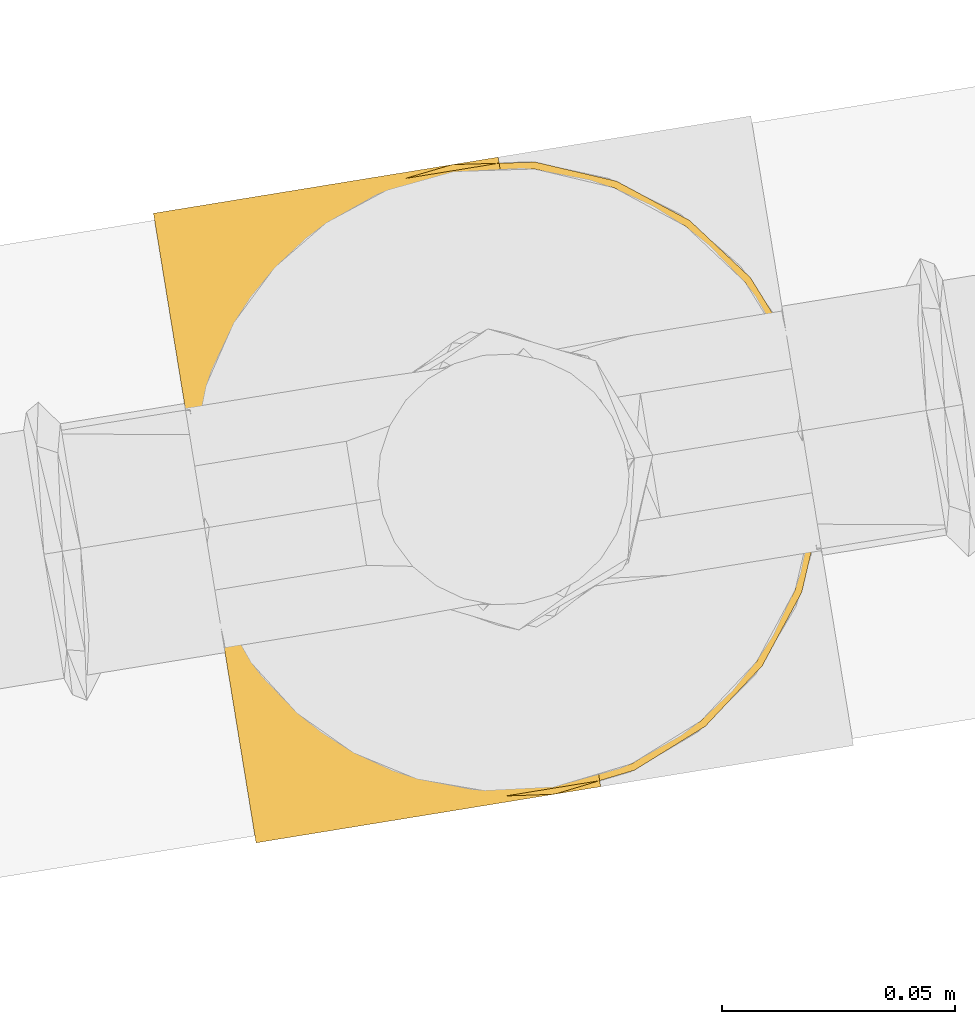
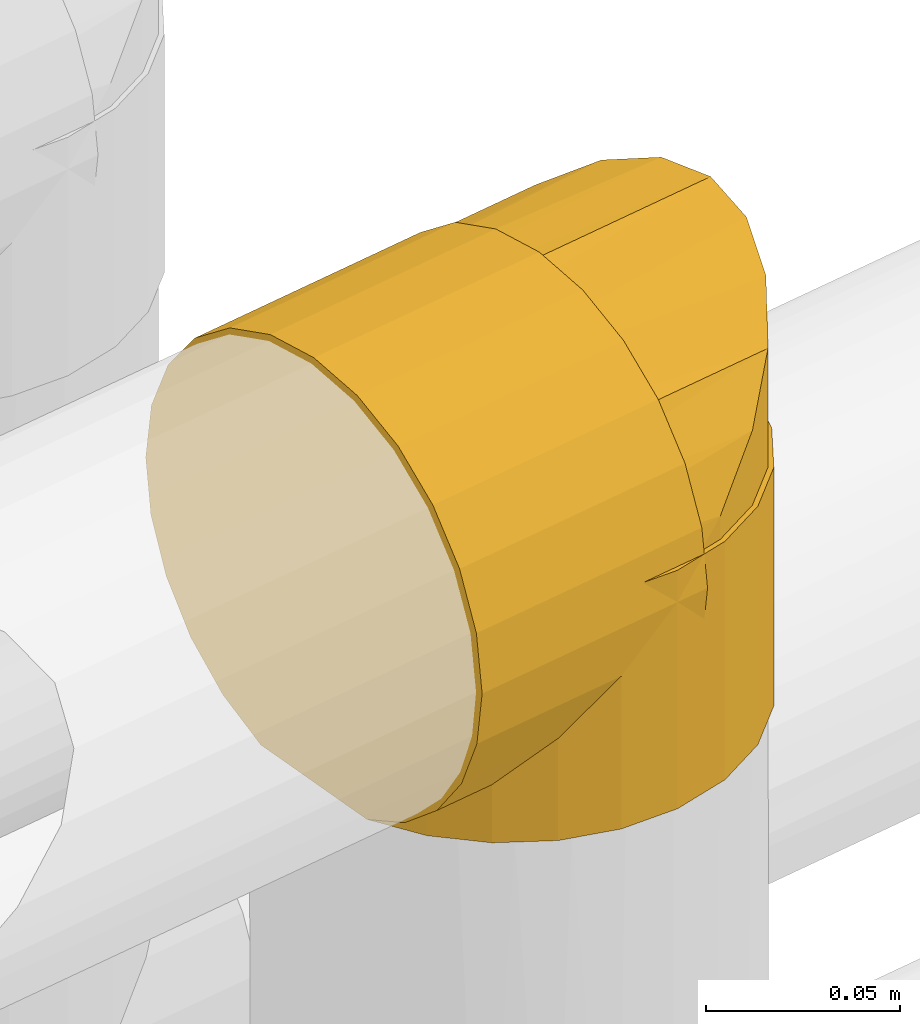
# One storey, part 6 of 56: 1 covering.
"""IFC2X3 building model written with IfcOpenShell, lengths in millimetres."""

from ifc_helpers import new_model, entity, si_unit, converted_unit, derived_unit, direction, frame, origin, origin_with_axes, place, context, subcontext, project, spatial, faceted_brep, material, type_object, element, save


model = new_model("IFC2X3")

# Units and contexts
model_context = context("Model", 3, precision=0.01, world=origin(), true_north=direction((6.12323399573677e-17, 1.0)))
plan_context = context("Plan", 3, precision=1e-05, world=origin_with_axes())
body_context = subcontext(model_context, "Body", "Model", "MODEL_VIEW")
ifc_project = project(units=[converted_unit("PLANEANGLEUNIT", "DEGREE", entity("IfcPositiveLengthMeasure", 0.0174532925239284), si_unit("PLANEANGLEUNIT", "RADIAN"), dimensions=[0, 0, 0, 0, 0, 0, 0]), si_unit("AREAUNIT", "SQUARE_METRE"), si_unit("LENGTHUNIT", "METRE", prefix="MILLI"), si_unit("MASSUNIT", "GRAM", prefix="KILO"), si_unit("POWERUNIT", "WATT"), si_unit("PRESSUREUNIT", "PASCAL", prefix="KILO"), si_unit("FORCEUNIT", "NEWTON", prefix="KILO"), si_unit("ELECTRICVOLTAGEUNIT", "VOLT"), si_unit("ELECTRICCURRENTUNIT", "AMPERE"), si_unit("THERMODYNAMICTEMPERATUREUNIT", "DEGREE_CELSIUS"), si_unit("TIMEUNIT", "SECOND"), si_unit("VOLUMEUNIT", "CUBIC_METRE"), derived_unit("LINEARVELOCITYUNIT", [(si_unit("LENGTHUNIT", "METRE"), 1), (si_unit("TIMEUNIT", "SECOND"), -1)]), derived_unit("VOLUMETRICFLOWRATEUNIT", [(si_unit("VOLUMEUNIT", "CUBIC_METRE"), 1), (si_unit("TIMEUNIT", "SECOND"), -1)]), derived_unit("THERMALTRANSMITTANCEUNIT", [(si_unit("POWERUNIT", "WATT"), 1), (si_unit("THERMODYNAMICTEMPERATUREUNIT", "KELVIN"), -1), (si_unit("AREAUNIT", "SQUARE_METRE"), -1)]), derived_unit("SOUNDPRESSUREUNIT", [(si_unit("PRESSUREUNIT", "PASCAL"), 1)])], contexts=[model_context, plan_context])

# Site, building, storey
site_placement = place(None, frame((-3.09682673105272e-06, 1.93776733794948e-05, 0.0), z_axis=(0.0, 0.0, 1.0), x_axis=(-0.160806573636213, 0.986985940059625, 0.0)))
site = spatial("IfcSite", under=ifc_project, at=site_placement, Name="Default", CompositionType="ELEMENT")
building_placement = place(site_placement, frame((0.0, 0.0, 0.0), z_axis=(0.0, 0.0, 1.0), x_axis=(1.0, -2.77555756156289e-17, 0.0)))
building = spatial("IfcBuilding", under=site, at=building_placement, Name="Bygning (endres i Project Information)", CompositionType="ELEMENT")
storey_placement = place(building_placement, frame((0.0, 0.0, 51360.0000000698), z_axis=(0.0, 0.0, 1.0), x_axis=(1.0, -2.77555756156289e-17, 0.0)))
storey = spatial("IfcBuildingStorey", under=building, at=storey_placement, Name="H01-Nivå D+0,36", CompositionType="ELEMENT", Elevation=51360.0000000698)

# Covering
ifc_material = material(Name="3200.003 Tur")
covering_type = type_object("IfcCoveringType", Name="Pipe Insulation:GLAVA Rørskål ClimPipe Alu2, isol.kl.4, 45°C", PredefinedType="INSULATION")
covering_placement = place(storey_placement, frame((1010968.34157057, -395261.852574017, 3533.40472776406), z_axis=(0.0, 0.0, 1.0), x_axis=(1.0, -2.77555756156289e-17, 0.0)))
element("IfcCovering", 1, at=covering_placement, inside=storey, type_object=covering_type, material=ifc_material, Name="Pipe Insulation:GLAVA Rørskål ClimPipe Alu2, isol.kl.4, 45°C", ObjectType="Pipe Insulation:GLAVA Rørskål ClimPipe Alu2, isol.kl.4, 45°C", PredefinedType="INSULATION", context=body_context, shape_type="Brep", body=[
    faceted_brep([(48.4793059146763, 135.095272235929, 1.5952722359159), (48.4793059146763, 135.095272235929, 76.5952722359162), (91.7112385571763, 135.095272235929, 76.5952722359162), (91.7112385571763, 135.095272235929, 1.5952722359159), (136.465971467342, 87.0416666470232, 76.5952722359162), (130.211561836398, 102.932472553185, 76.5952722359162), (120.221067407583, 116.782044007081, 76.5952722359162), (107.116057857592, 127.72956265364, 76.5952722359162), (33.074486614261, 127.72956265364, 76.5952722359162), (19.9694770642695, 116.782044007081, 76.5952722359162), (9.9789826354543, 102.932472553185, 76.5952722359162), (3.7245730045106, 87.0416666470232, 76.5952722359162), (1.59527223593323, 70.0952722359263, 76.5952722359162), (3.92935313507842, 52.366167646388, 76.5952722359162), (10.7725320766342, 35.8452722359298, 76.5952722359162), (21.658457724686, 21.6584577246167, 76.5952722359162), (35.8452722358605, 10.7725320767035, 76.5952722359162), (52.3661676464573, 3.92935313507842, 76.5952722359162), (70.0952722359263, 1.59527223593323, 76.5952722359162), (87.8243768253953, 3.92935313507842, 76.5952722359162), (104.345272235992, 10.7725320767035, 76.5952722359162), (118.532086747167, 21.6584577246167, 76.5952722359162), (129.418012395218, 35.8452722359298, 76.5952722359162), (136.261191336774, 52.366167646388, 76.5952722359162), (138.595272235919, 70.0952722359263, 76.5952722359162), (33.074486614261, 127.72956265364, 1.5952722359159), (19.9694770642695, 116.782044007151, 1.5952722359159), (9.9789826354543, 102.932472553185, 1.5952722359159), (3.7245730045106, 87.0416666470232, 1.5952722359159), (1.59527223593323, 70.0952722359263, 1.5952722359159), (3.92935313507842, 52.366167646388, 1.5952722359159), (10.7725320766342, 35.8452722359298, 1.5952722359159), (21.658457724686, 21.6584577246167, 1.5952722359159), (35.8452722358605, 10.7725320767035, 1.5952722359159), (52.3661676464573, 3.92935313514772, 1.5952722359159), (70.0952722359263, 1.59527223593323, 1.5952722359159), (87.8243768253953, 3.92935313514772, 1.5952722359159), (104.345272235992, 10.7725320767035, 1.5952722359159), (118.532086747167, 21.6584577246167, 1.5952722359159), (129.418012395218, 35.8452722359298, 1.5952722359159), (136.261191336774, 52.366167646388, 1.5952722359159), (138.595272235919, 70.0952722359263, 1.5952722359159), (136.465971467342, 87.0416666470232, 1.5952722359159), (130.211561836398, 102.932472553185, 1.5952722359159), (120.221067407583, 116.782044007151, 1.5952722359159), (107.116057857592, 127.72956265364, 1.5952722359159)], [[[0, 1, 2, 3]], [[4, 5, 6, 7, 2, 1, 8, 9, 10, 11, 12, 13, 14, 15, 16, 17, 18, 19, 20, 21, 22, 23, 24]], [[25, 26, 9, 8]], [[0, 25, 8, 1]], [[26, 27, 10, 9]], [[10, 27, 28, 11]], [[11, 28, 29, 12]], [[13, 30, 31, 14]], [[14, 31, 32, 15]], [[12, 29, 30, 13]], [[16, 33, 34, 17]], [[17, 34, 35, 18]], [[15, 32, 33, 16]], [[19, 36, 37, 20]], [[20, 37, 38, 21]], [[35, 36, 19, 18]], [[22, 39, 40, 23]], [[23, 40, 41, 24]], [[21, 38, 39, 22]], [[24, 41, 42, 4]], [[4, 42, 43, 5]], [[43, 44, 6, 5]], [[6, 44, 45, 7]], [[7, 45, 3, 2]], [[28, 27, 26, 25, 0, 3, 45, 44, 43, 42, 41, 40, 39, 38, 37, 36, 35, 34, 33, 32, 31, 30, 29]]]),
    faceted_brep([(91.7112385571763, 60.0952722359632, 1.5952722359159), (48.4793059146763, 60.0952722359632, 1.5952722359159), (48.4793059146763, 135.095272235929, 1.5952722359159), (91.7112385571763, 135.095272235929, 1.5952722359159), (136.261191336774, 60.0952722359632, 84.3243768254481), (129.418012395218, 60.0952722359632, 100.845272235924), (118.532086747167, 60.0952722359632, 115.032086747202), (104.345272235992, 60.0952722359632, 125.918012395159), (87.8243768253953, 60.0952722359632, 132.761191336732), (70.0952722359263, 60.0952722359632, 135.095272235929), (52.3661676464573, 60.0952722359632, 132.761191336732), (35.8452722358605, 60.0952722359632, 125.918012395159), (21.658457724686, 60.0952722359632, 115.032086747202), (10.7725320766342, 60.0952722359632, 100.845272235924), (3.92935313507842, 60.0952722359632, 84.3243768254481), (1.59527223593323, 60.0952722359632, 66.5952722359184), (3.7245730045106, 60.0952722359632, 49.6488778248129), (9.9789826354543, 60.0952722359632, 33.7580719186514), (19.9694770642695, 60.0952722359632, 19.9085004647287), (33.074486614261, 60.0952722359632, 8.96098181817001), (107.116057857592, 60.0952722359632, 8.96098181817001), (120.221067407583, 60.0952722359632, 19.9085004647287), (130.211561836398, 60.0952722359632, 33.7580719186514), (136.465971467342, 60.0952722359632, 49.6488778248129), (138.595272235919, 60.0952722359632, 66.5952722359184), (70.0952722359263, 135.095272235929, 135.095272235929), (52.3661676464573, 135.095272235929, 132.761191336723), (35.8452722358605, 135.095272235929, 125.918012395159), (21.658457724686, 135.095272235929, 115.032086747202), (10.7725320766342, 135.095272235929, 100.845272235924), (3.92935313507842, 135.095272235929, 84.3243768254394), (1.59527223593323, 135.095272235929, 66.5952722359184), (3.7245730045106, 135.095272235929, 49.6488778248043), (9.9789826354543, 135.095272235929, 33.7580719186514), (19.9694770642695, 135.095272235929, 19.9085004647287), (33.074486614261, 135.095272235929, 8.96098181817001), (107.116057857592, 135.095272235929, 8.96098181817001), (120.221067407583, 135.095272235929, 19.9085004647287), (130.211561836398, 135.095272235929, 33.7580719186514), (136.465971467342, 135.095272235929, 49.6488778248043), (138.595272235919, 135.095272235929, 66.5952722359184), (136.261191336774, 135.095272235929, 84.3243768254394), (129.418012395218, 135.095272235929, 100.845272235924), (118.532086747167, 135.095272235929, 115.032086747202), (104.345272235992, 135.095272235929, 125.918012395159), (87.8243768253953, 135.095272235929, 132.761191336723)], [[[0, 1, 2, 3]], [[4, 5, 6, 7, 8, 9, 10, 11, 12, 13, 14, 15, 16, 17, 18, 19, 1, 0, 20, 21, 22, 23, 24]], [[25, 26, 10, 9]], [[12, 11, 27, 28]], [[27, 11, 10, 26]], [[13, 29, 30, 14]], [[14, 30, 31, 15]], [[12, 28, 29, 13]], [[15, 31, 32, 16]], [[16, 32, 33, 17]], [[33, 34, 18, 17]], [[18, 34, 35, 19]], [[19, 35, 2, 1]], [[0, 3, 36, 20]], [[20, 36, 37, 21]], [[37, 38, 22, 21]], [[22, 38, 39, 23]], [[23, 39, 40, 24]], [[4, 41, 42, 5]], [[5, 42, 43, 6]], [[40, 41, 4, 24]], [[7, 44, 45, 8]], [[8, 45, 25, 9]], [[6, 43, 44, 7]], [[2, 35, 34, 33, 32, 31, 30, 29, 28, 27, 26, 25, 45, 44, 43, 42, 41, 40, 39, 38, 37, 36, 3]]]),
    faceted_brep([(17.0805762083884, 135.095272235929, 25.6264791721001), (6.68792000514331, 135.095272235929, 44.9502339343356), (3.09527223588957, 135.095272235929, 66.5952722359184), (5.64530789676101, 135.095272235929, 79.4151672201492), (8.19534355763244, 135.095272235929, 92.2350622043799), (15.4572307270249, 135.095272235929, 103.103244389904), (22.7191178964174, 135.095272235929, 113.971426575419), (33.5873000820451, 135.095272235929, 121.233313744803), (44.4554822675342, 135.095272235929, 128.495200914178), (57.2753772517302, 135.095272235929, 131.045236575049), (70.0952722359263, 135.095272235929, 133.595272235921), (82.9151672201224, 135.095272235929, 131.045236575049), (95.7350622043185, 135.095272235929, 128.495200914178), (106.603244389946, 135.095272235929, 121.233313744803), (117.471426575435, 135.095272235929, 113.971426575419), (124.733313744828, 135.095272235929, 103.103244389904), (131.99520091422, 135.095272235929, 92.2350622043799), (134.545236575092, 135.095272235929, 79.4151672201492), (137.095272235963, 135.095272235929, 66.5952722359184), (133.502624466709, 135.095272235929, 44.9502339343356), (87.1490829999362, 135.095272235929, 1.83080768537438), (87.0708044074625, 135.095272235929, 1.79590397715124), (86.9925258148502, 135.095272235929, 1.76100026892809), (53.1980186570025, 135.095272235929, 1.76100026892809), (53.1197400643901, 135.095272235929, 1.79590397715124), (53.0414614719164, 135.095272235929, 1.83080768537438), (52.8849042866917, 135.095272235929, 1.90061510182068), (52.7283471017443, 135.095272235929, 1.97042251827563), (52.5717899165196, 135.095272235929, 2.04022993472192), (52.2586755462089, 135.095272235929, 2.17984476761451), (51.9455611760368, 135.095272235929, 2.31945960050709), (51.6324468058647, 135.095272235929, 2.45907443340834), (51.319332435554, 135.095272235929, 2.59868926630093), (50.6931036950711, 135.095272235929, 2.87791893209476), (50.0668749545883, 135.095272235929, 3.15714859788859), (49.4406462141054, 135.095272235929, 3.43637826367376), (48.8144174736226, 135.095272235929, 3.71560792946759), (48.1881887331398, 135.095272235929, 3.99483759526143), (46.9357312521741, 135.095272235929, 4.55329692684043), (45.6832737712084, 135.095272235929, 5.11175625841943), (44.4308162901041, 135.095272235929, 5.67021559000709), (43.1783588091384, 135.095272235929, 6.22867492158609), (40.6734438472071, 135.095272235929, 7.34559358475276), (38.1685288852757, 135.095272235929, 8.46251224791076), (33.158698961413, 135.095272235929, 10.6963495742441), (29.1391682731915, 135.095272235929, 14.4288819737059), (25.11963758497, 135.095272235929, 18.1614143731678), (123.109968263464, 135.095272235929, 25.6264791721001), (115.070906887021, 135.095272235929, 18.1614143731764), (111.051376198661, 135.095272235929, 14.4288819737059), (107.03184551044, 135.095272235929, 10.6963495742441), (102.022015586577, 135.095272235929, 8.46251224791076), (99.5171006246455, 135.095272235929, 7.34559358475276), (97.0121856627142, 135.095272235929, 6.22867492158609), (95.7597281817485, 135.095272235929, 5.67021559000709), (94.5072707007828, 135.095272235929, 5.11175625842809), (93.2548132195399, 135.095272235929, 4.55329692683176), (92.0023557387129, 135.095272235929, 3.99483759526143), (91.3761269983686, 135.095272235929, 3.71560792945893), (90.7498982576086, 135.095272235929, 3.43637826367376), (90.1236695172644, 135.095272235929, 3.15714859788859), (89.4974407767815, 135.095272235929, 2.8779189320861), (88.8712120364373, 135.095272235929, 2.59868926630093), (88.5580976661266, 135.095272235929, 2.45907443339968), (88.2449832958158, 135.095272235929, 2.31945960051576), (87.9318689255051, 135.095272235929, 2.17984476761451), (87.618754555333, 135.095272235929, 2.04022993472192), (87.4621973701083, 135.095272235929, 1.97042251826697), (87.4361482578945, 5.37824187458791, 1.5952722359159), (70.0952722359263, 3.09527223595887, 1.5952722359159), (52.7543962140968, 5.37824187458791, 1.5952722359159), (36.5952722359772, 12.0715701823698, 1.5952722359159), (22.7191178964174, 22.7191178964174, 1.5952722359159), (12.0715701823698, 36.5952722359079, 1.5952722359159), (5.37824187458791, 52.7543962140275, 1.5952722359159), (3.09527223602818, 70.0952722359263, 1.5952722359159), (4.70003474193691, 84.671379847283, 1.5952722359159), (9.43744874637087, 98.5492429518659, 1.5952722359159), (17.0805762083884, 111.064065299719, 1.5952722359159), (27.2632856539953, 121.616344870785, 1.5952722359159), (39.4977911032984, 129.700592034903, 1.5952722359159), (53.1980186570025, 134.929544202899, 1.5952722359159), (86.9925258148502, 134.929544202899, 1.5952722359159), (100.692753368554, 129.700592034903, 1.5952722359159), (112.927258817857, 121.616344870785, 1.5952722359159), (123.109968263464, 111.064065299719, 1.5952722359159), (130.75309572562, 98.5492429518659, 1.5952722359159), (135.490509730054, 84.671379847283, 1.5952722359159), (137.095272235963, 70.0952722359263, 1.5952722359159), (134.812302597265, 52.7543962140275, 1.5952722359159), (128.118974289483, 36.5952722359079, 1.5952722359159), (117.471426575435, 22.7191178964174, 1.5952722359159), (103.595272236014, 12.0715701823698, 1.5952722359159), (53.1980186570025, 134.929544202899, 1.76100026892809), (86.9925258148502, 134.929544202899, 1.76100026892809), (112.927258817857, 121.616344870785, 15.0741996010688), (123.109968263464, 111.064065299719, 25.6264791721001), (100.692753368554, 129.700592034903, 6.98995243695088), (103.751379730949, 127.679530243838, 9.01101422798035), (106.810006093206, 125.658468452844, 11.0320760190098), (87.4206579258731, 134.766139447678, 1.92440502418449), (87.6347239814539, 134.684437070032, 2.00610740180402), (88.2769221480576, 134.439329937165, 2.25121453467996), (88.7050542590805, 134.275925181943, 2.41461928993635), (89.1331863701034, 134.112520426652, 2.57802404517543), (89.5613184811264, 133.94911567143, 2.74142880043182), (90.4175827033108, 133.622306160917, 3.06823831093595), (91.2738469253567, 133.295496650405, 3.39504782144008), (92.1301111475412, 132.968687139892, 3.72185733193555), (93.8426395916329, 132.315068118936, 4.37547635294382), (97.2676964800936, 131.007830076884, 5.68271439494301), (87.0995588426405, 134.888693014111, 1.80185145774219), (87.3136248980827, 134.806990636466, 1.88355383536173), (135.490509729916, 84.671379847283, 52.0191646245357), (137.095272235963, 70.0952722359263, 66.5952722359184), (130.753095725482, 98.5492429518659, 38.1413015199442), (134.812302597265, 52.7543962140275, 83.9361482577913), (128.118974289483, 36.5952722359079, 100.095272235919), (117.471426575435, 22.7191178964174, 113.971426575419), (103.595272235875, 12.0715701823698, 124.618974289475), (87.4361482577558, 5.37824187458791, 131.312302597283), (70.0952722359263, 3.09527223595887, 133.595272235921), (52.7543962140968, 5.37824187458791, 131.312302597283), (36.5952722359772, 12.0715701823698, 124.618974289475), (22.7191178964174, 22.7191178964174, 113.971426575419), (12.0715701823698, 36.5952722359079, 100.095272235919), (5.37824187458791, 52.7543962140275, 83.9361482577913), (3.09527223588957, 70.0952722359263, 66.5952722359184), (4.70003474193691, 84.671379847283, 52.0191646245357), (9.43744874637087, 98.5492429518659, 38.1413015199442), (17.0805762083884, 111.064065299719, 25.6264791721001), (39.4977911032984, 129.700592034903, 6.98995243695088), (42.922847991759, 131.007830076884, 5.68271439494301), (44.6353764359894, 131.66144909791, 5.02909537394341), (46.3479048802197, 132.315068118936, 4.37547635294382), (48.0604333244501, 132.968687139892, 3.72185733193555), (48.9166975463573, 133.295496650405, 3.39504782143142), (49.7729617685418, 133.622306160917, 3.06823831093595), (50.6292259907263, 133.94911567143, 2.74142880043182), (51.0573581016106, 134.112520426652, 2.57802404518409), (51.4854902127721, 134.275925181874, 2.41461928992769), (51.9136223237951, 134.439329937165, 2.25121453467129), (52.3417544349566, 134.602734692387, 2.08780977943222), (52.5558204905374, 134.684437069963, 2.00610740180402), (52.7698865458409, 134.766139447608, 1.92440502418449), (52.8769195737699, 134.806990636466, 1.88355383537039), (52.9839526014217, 134.847841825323, 1.84270264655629), (53.0909856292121, 134.888693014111, 1.80185145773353), (27.2632856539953, 121.616344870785, 15.0741996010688), (33.3805383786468, 125.658468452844, 11.0320760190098), (36.4391647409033, 127.679530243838, 9.01101422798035), (95.5551680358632, 131.66144909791, 5.02909537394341), (87.848790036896, 134.602734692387, 2.08780977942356), (87.2065918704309, 134.847841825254, 1.84270264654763), (87.3056401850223, 135.095272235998, 1.90061510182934)], [[[0, 1, 2, 3, 4, 5, 6, 7, 8, 9, 10, 11, 12, 13, 14, 15, 16, 17, 18, 19, 20, 21, 22, 23, 24, 25, 26, 27, 28, 29, 30, 31, 32, 33, 34, 35, 36, 37, 38, 39, 40, 41, 42, 43, 44, 45, 46]], [[19, 47, 48, 49, 50, 51, 52, 53, 54, 55, 56, 57, 58, 59, 60, 61, 62, 63, 64, 65, 66, 67]], [[68, 69, 70, 71, 72, 73, 74, 75, 76, 77, 78, 79, 80, 81, 82, 83, 84, 85, 86, 87, 88, 89, 90, 91, 92]], [[82, 81, 93, 94]], [[84, 95, 96, 85]], [[84, 83, 97, 98, 99, 95]], [[82, 94, 83]], [[83, 100, 101]], [[83, 102, 103]], [[83, 104, 105, 106]], [[83, 107, 108, 109]], [[83, 110, 97]], [[83, 94, 111]], [[83, 112, 100]], [[113, 114, 88, 87]], [[115, 113, 87, 86]], [[96, 115, 86, 85]], [[89, 88, 114, 116]], [[90, 89, 116, 117]], [[117, 118, 91, 90]], [[68, 92, 119, 120]], [[69, 68, 120, 121]], [[118, 119, 92, 91]], [[69, 121, 122, 70]], [[70, 122, 123, 71]], [[71, 123, 124, 72]], [[72, 124, 125, 73]], [[73, 125, 126, 74]], [[127, 75, 74, 126]], [[128, 129, 77, 76]], [[127, 128, 76, 75]], [[77, 129, 130, 78]], [[80, 131, 132, 133, 134, 135, 136, 137, 138, 139, 140, 141, 142, 143, 144, 145]], [[93, 81, 80, 146, 147]], [[79, 148, 149, 150, 131, 80]], [[78, 130, 148, 79]], [[94, 93, 23, 22]], [[151, 54, 110]], [[108, 56, 109]], [[109, 56, 55]], [[50, 99, 98]], [[108, 107, 58]], [[97, 51, 98]], [[96, 95, 48]], [[49, 99, 50]], [[48, 47, 96]], [[95, 49, 48]], [[115, 47, 19]], [[52, 110, 54, 53]], [[50, 98, 51]], [[113, 19, 18]], [[99, 49, 95]], [[113, 115, 19]], [[114, 113, 18]], [[97, 52, 51]], [[151, 109, 55]], [[47, 115, 96]], [[61, 105, 104]], [[110, 52, 97]], [[107, 106, 59]], [[56, 108, 58, 57]], [[65, 64, 63, 102]], [[151, 55, 54]], [[106, 60, 59]], [[105, 60, 106]], [[104, 103, 62]], [[60, 105, 61]], [[107, 59, 58]], [[67, 66, 101]], [[103, 63, 62]], [[102, 63, 103]], [[61, 104, 62]], [[102, 152, 65]], [[153, 20, 154]], [[152, 66, 65]], [[101, 100, 67]], [[66, 152, 101]], [[111, 21, 20]], [[100, 154, 67]], [[154, 100, 112, 153]], [[21, 94, 22]], [[20, 153, 111]], [[94, 21, 111]], [[117, 16, 15]], [[114, 17, 116]], [[16, 117, 116]], [[15, 118, 117]], [[13, 118, 14]], [[17, 16, 116]], [[14, 118, 15]], [[17, 114, 18]], [[118, 13, 119]], [[10, 121, 11]], [[12, 120, 119]], [[121, 120, 11]], [[120, 12, 11]], [[13, 12, 119]], [[121, 9, 122]], [[9, 121, 10]], [[7, 6, 124]], [[7, 124, 123]], [[123, 8, 7]], [[122, 8, 123]], [[5, 4, 125]], [[5, 124, 6]], [[124, 5, 125]], [[9, 8, 122]], [[2, 127, 3]], [[4, 126, 125]], [[127, 126, 3]], [[126, 4, 3]], [[128, 2, 1]], [[131, 43, 42]], [[0, 129, 1]], [[130, 129, 0]], [[148, 46, 45]], [[128, 127, 2]], [[129, 128, 1]], [[44, 150, 149]], [[42, 41, 40, 132]], [[138, 137, 34]], [[45, 44, 149]], [[38, 37, 36, 135]], [[134, 38, 135]], [[150, 44, 43]], [[148, 45, 149]], [[42, 132, 131]], [[130, 46, 148]], [[133, 40, 39]], [[46, 130, 0]], [[134, 39, 38]], [[43, 131, 150]], [[39, 134, 133]], [[141, 140, 31]], [[136, 36, 35]], [[34, 33, 138]], [[132, 40, 133]], [[137, 35, 34]], [[35, 137, 136]], [[28, 143, 142]], [[139, 33, 32]], [[31, 30, 29, 141]], [[33, 139, 138]], [[135, 36, 136]], [[140, 32, 31]], [[26, 145, 144]], [[32, 140, 139]], [[142, 29, 28]], [[141, 29, 142]], [[25, 147, 146]], [[27, 143, 28]], [[144, 27, 26]], [[143, 27, 144]], [[24, 93, 147]], [[26, 146, 145]], [[146, 26, 25]], [[93, 24, 23]], [[147, 25, 24]], [[19, 67, 154]], [[19, 154, 20]], [[83, 111, 153]], [[83, 101, 152]], [[83, 153, 112]], [[83, 103, 104]], [[83, 152, 102]], [[83, 106, 107]], [[83, 109, 151, 110]], [[80, 145, 146]]]),
])

save(model, "model.ifc")
